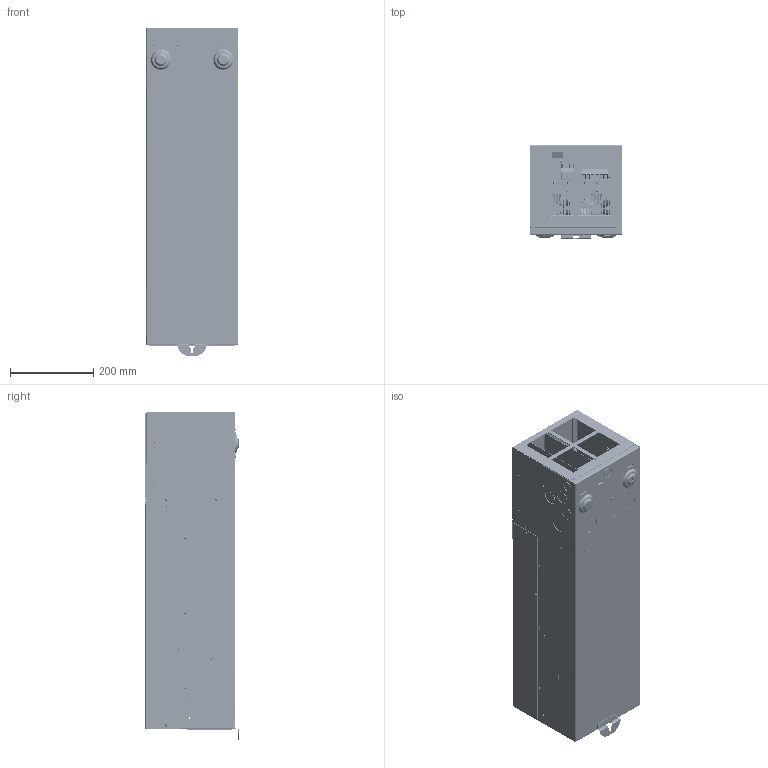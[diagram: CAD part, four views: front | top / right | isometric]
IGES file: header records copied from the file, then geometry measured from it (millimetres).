
Start section: SolidWorks IGES file using analytic representation for surfaces
Global section: file name: N:\DavidM\HVMPPT_Shell.IGS; native system: SolidWorks 2013; preprocessor: SolidWorks 2013; author: SESA125144; date: 140408.095057; units: millimetre
Bounding box: 221.93 x 223.9 x 789 mm (x, y, z)
Surface area: 2494639.8 mm2 (no closed solid volume)
Topology: 0 solids, 0 shells, 4849 faces, 67471 edges, 67406 vertices
Faces by surface type: bspline 2636, revolution 2213
